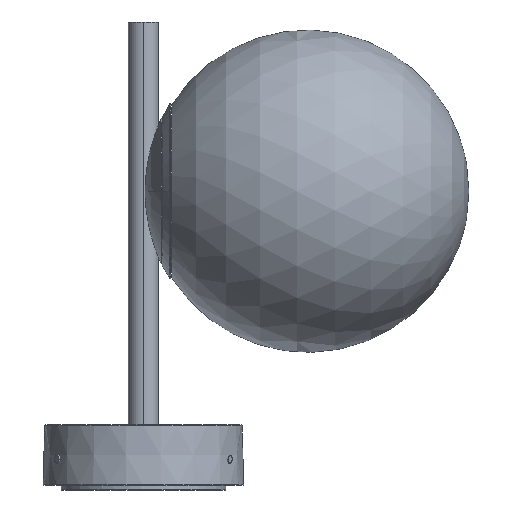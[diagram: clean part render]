
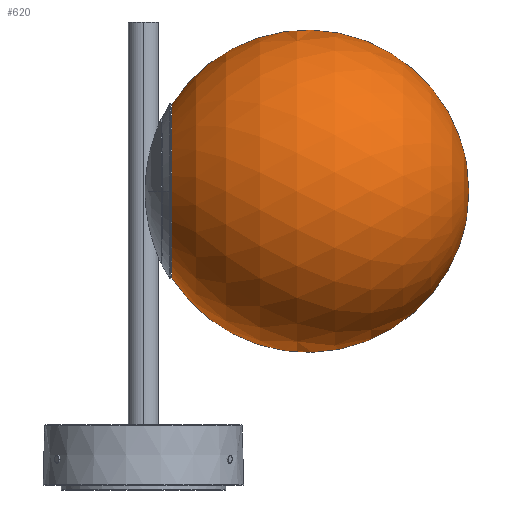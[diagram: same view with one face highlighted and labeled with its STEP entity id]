
A CAD part, left-side view. The second image highlights one B-rep face of the part: STEP entity #620.
In plain terms, the highlighted spherical face has radius 80 mm.
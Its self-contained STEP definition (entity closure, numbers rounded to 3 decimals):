
#581=CARTESIAN_POINT('',(0.,44.739,44.));
#582=DIRECTION('',(0.,1.,0.));
#583=DIRECTION('',(0.,0.,-1.));
#584=AXIS2_PLACEMENT_3D('',#581,#582,#583);
#586=CARTESIAN_POINT('',(0.,-22.691,44.));
#587=DIRECTION('',(-1.,0.,0.));
#588=DIRECTION('',(0.,0.843,-0.538));
#589=AXIS2_PLACEMENT_3D('',#586,#587,#588);
#591=CARTESIAN_POINT('',(0.,-22.691,44.));
#592=DIRECTION('',(1.,0.,0.));
#593=DIRECTION('',(0.,0.843,0.538));
#594=AXIS2_PLACEMENT_3D('',#591,#592,#593);
#601=CARTESIAN_POINT('',(0.,44.739,0.951));
#602=CARTESIAN_POINT('',(0.,-102.691,44.));
#603=VERTEX_POINT('',#601);
#604=VERTEX_POINT('',#602);
#605=CARTESIAN_POINT('',(0.,44.739,87.049));
#606=VERTEX_POINT('',#605);
#607=CARTESIAN_POINT('',(0.,-22.691,44.));
#608=DIRECTION('',(0.,1.,0.));
#609=DIRECTION('',(0.,0.,1.));
#610=AXIS2_PLACEMENT_3D('',#607,#608,#609);
#611=SPHERICAL_SURFACE('',#610,80.);
#613=ORIENTED_EDGE('',*,*,#612,.F.);
#615=ORIENTED_EDGE('',*,*,#614,.T.);
#617=ORIENTED_EDGE('',*,*,#616,.T.);
#618=EDGE_LOOP('',(#613,#615,#617));
#619=FACE_OUTER_BOUND('',#618,.F.);
#620=ADVANCED_FACE('',(#619),#611,.T.);
#585=CIRCLE('',#584,43.049);
#590=CIRCLE('',#589,80.);
#595=CIRCLE('',#594,80.);
#612=EDGE_CURVE('',#603,#604,#590,.T.);
#614=EDGE_CURVE('',#603,#606,#585,.T.);
#616=EDGE_CURVE('',#606,#604,#595,.T.);
